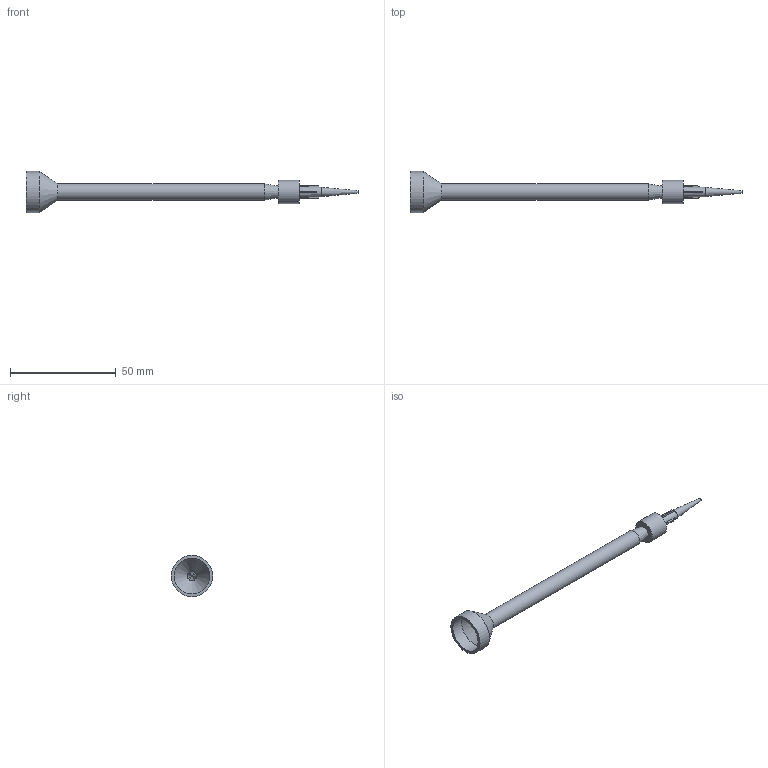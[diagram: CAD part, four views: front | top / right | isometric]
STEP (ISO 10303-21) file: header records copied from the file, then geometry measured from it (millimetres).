
FILE_DESCRIPTION (( 'STEP AP214' ), '1' );
FILE_NAME ('Mixer 4-24L + TT18.STEP', '2024-10-11T14:42:38', ( '' ), ( '' ), 'SwSTEP 2.0', 'SolidWorks 2024', '' );
FILE_SCHEMA (( 'AUTOMOTIVE_DESIGN' ));
Length unit declared in the file: millimetre
Products named in the file (1): Mixer 4-24L + TT18
Bounding box: 156.88 x 19.5 x 19.5 mm (x, y, z)
Volume: 4928.3 mm3; surface area: 7210.6 mm2
Topology: 2 solids, 2 shells, 65 faces, 158 edges, 99 vertices
Faces by surface type: plane 26, cone 17, bspline 14, cylinder 8
Full cylindrical faces by diameter (mm): 4.4 x1, 6.655 x1, 7.6 x1, 8 x1, 11 x1, 16.8 x1, 19.5 x1
Entity records: 2118 total; most frequent: CARTESIAN_POINT 853, ORIENTED_EDGE 244, DIRECTION 228, EDGE_CURVE 122, AXIS2_PLACEMENT_3D 100, EDGE_LOOP 94, VERTEX_POINT 88, FACE_OUTER_BOUND 75
